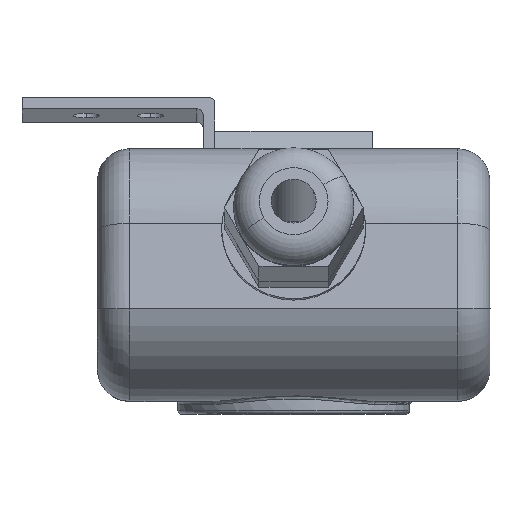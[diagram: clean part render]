
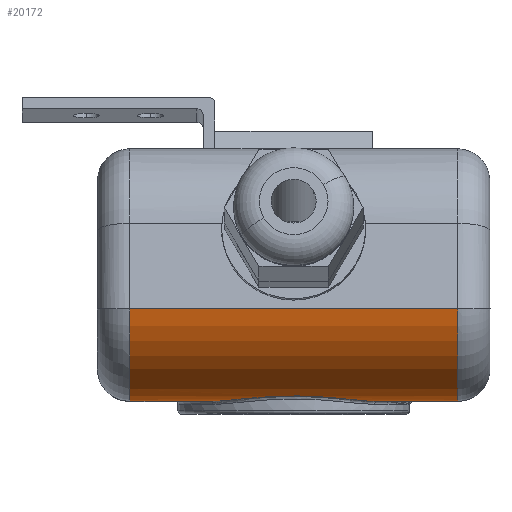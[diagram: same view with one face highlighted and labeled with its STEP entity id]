
A CAD part, top view. The second image highlights one B-rep face of the part: STEP entity #20172.
In plain terms, the highlighted cylindrical face has radius 17 mm (diameter 34 mm), a partial arc.
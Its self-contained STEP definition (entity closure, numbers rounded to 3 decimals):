
#207 = CARTESIAN_POINT ( 'NONE',  ( 14.3, 15.955, -42.574 ) ) ;
#279 = CARTESIAN_POINT ( 'NONE',  ( 13.506, 11.651, -29.321 ) ) ;
#390 = VECTOR ( 'NONE', #7497, 1000. ) ;
#489 = B_SPLINE_CURVE_WITH_KNOTS ( 'NONE', 3,
 ( #16697, #207, #1876, #13579, #3571, #15214, #5232, #16857, #6891, #18509, #8560, #20163, #10246, #279, #11932, #1958, #13648, #3641, #15291, #5308, #16928, #6954, #18586, #8628, #20233, #10320 ),
 .UNSPECIFIED., .F., .F.,
 ( 4, 2, 2, 2, 2, 2, 2, 2, 2, 2, 2, 2, 4 ),
 ( 0., 0.004, 0.005, 0.007, 0.011, 0.012, 0.014, 0.018, 0.02, 0.021, 0.023, 0.025, 0.028 ),
 .UNSPECIFIED. ) ;
#1269 = VERTEX_POINT ( 'NONE', #5138 ) ;
#1521 = CARTESIAN_POINT ( 'NONE',  ( -2.7, 16.784, -56. ) ) ;
#1590 = DIRECTION ( 'NONE',  ( -1., 0., 0. ) ) ;
#1664 = ORIENTED_EDGE ( 'NONE', *, *, #3469, .F. ) ;
#1876 = CARTESIAN_POINT ( 'NONE',  ( 14.241, 15.227, -41.639 ) ) ;
#1958 = CARTESIAN_POINT ( 'NONE',  ( 13.64, 12.092, -26.382 ) ) ;
#2330 = AXIS2_PLACEMENT_3D ( 'NONE', #17073, #7108, #18728 ) ;
#2583 = ORIENTED_EDGE ( 'NONE', *, *, #6000, .T. ) ;
#3210 = DIRECTION ( 'NONE',  ( 1., 0., 0. ) ) ;
#3288 = CARTESIAN_POINT ( 'NONE',  ( -2.7, 16.784, 0. ) ) ;
#3469 = EDGE_CURVE ( 'NONE', #14469, #18178, #15806, .T. ) ;
#3571 = CARTESIAN_POINT ( 'NONE',  ( 14.069, 13.981, -39.629 ) ) ;
#3641 = CARTESIAN_POINT ( 'NONE',  ( 13.768, 12.561, -24.656 ) ) ;
#3778 = AXIS2_PLACEMENT_3D ( 'NONE', #3288, #21471, #1590 ) ;
#4794 = CIRCLE ( 'NONE', #11960, 17. ) ;
#4815 = LINE ( 'NONE', #15791, #390 ) ;
#4886 = DIRECTION ( 'NONE',  ( 0., 0., -1. ) ) ;
#4998 = CARTESIAN_POINT ( 'NONE',  ( 0., 0., -56. ) ) ;
#5138 = CARTESIAN_POINT ( 'NONE',  ( 0., 0., -5. ) ) ;
#5232 = CARTESIAN_POINT ( 'NONE',  ( 13.918, 13.193, -38.022 ) ) ;
#5308 = CARTESIAN_POINT ( 'NONE',  ( 13.916, 13.186, -22.996 ) ) ;
#5589 = VERTEX_POINT ( 'NONE', #13756 ) ;
#5600 = CIRCLE ( 'NONE', #2330, 17. ) ;
#5622 = EDGE_CURVE ( 'NONE', #1269, #7892, #4815, .T. ) ;
#5975 = EDGE_CURVE ( 'NONE', #5589, #18178, #489, .T. ) ;
#6000 = EDGE_CURVE ( 'NONE', #14469, #1269, #5600, .T. ) ;
#6388 = FACE_OUTER_BOUND ( 'NONE', #16003, .T. ) ;
#6534 = EDGE_CURVE ( 'NONE', #7892, #18159, #4794, .T. ) ;
#6891 = CARTESIAN_POINT ( 'NONE',  ( 13.675, 12.21, -35.23 ) ) ;
#6954 = CARTESIAN_POINT ( 'NONE',  ( 14.067, 13.966, -21.398 ) ) ;
#7108 = DIRECTION ( 'NONE',  ( 0., 0., -1. ) ) ;
#7497 = DIRECTION ( 'NONE',  ( 0., 0., -1. ) ) ;
#7892 = VERTEX_POINT ( 'NONE', #4998 ) ;
#8086 = CARTESIAN_POINT ( 'NONE',  ( 14.3, 16.784, -17.554 ) ) ;
#8560 = CARTESIAN_POINT ( 'NONE',  ( 13.55, 11.792, -32.887 ) ) ;
#8628 = CARTESIAN_POINT ( 'NONE',  ( 14.241, 15.223, -19.365 ) ) ;
#9596 = ORIENTED_EDGE ( 'NONE', *, *, #5975, .T. ) ;
#10246 = CARTESIAN_POINT ( 'NONE',  ( 13.507, 11.651, -31.1 ) ) ;
#10320 = CARTESIAN_POINT ( 'NONE',  ( 14.3, 16.784, -17.554 ) ) ;
#10778 = DIRECTION ( 'NONE',  ( 0., 0., -1. ) ) ;
#11382 = VECTOR ( 'NONE', #10778, 1000. ) ;
#11932 = CARTESIAN_POINT ( 'NONE',  ( 13.542, 11.76, -28.141 ) ) ;
#11960 = AXIS2_PLACEMENT_3D ( 'NONE', #1521, #13218, #3210 ) ;
#11985 = VECTOR ( 'NONE', #4886, 1000. ) ;
#13017 = CARTESIAN_POINT ( 'NONE',  ( 14.3, 16.784, -56. ) ) ;
#13218 = DIRECTION ( 'NONE',  ( 0., 0., 1. ) ) ;
#13579 = CARTESIAN_POINT ( 'NONE',  ( 14.117, 14.275, -40.143 ) ) ;
#13648 = CARTESIAN_POINT ( 'NONE',  ( 13.68, 12.232, -25.797 ) ) ;
#13756 = CARTESIAN_POINT ( 'NONE',  ( 14.3, 16.784, -43.446 ) ) ;
#14469 = VERTEX_POINT ( 'NONE', #17301 ) ;
#14759 = CYLINDRICAL_SURFACE ( 'NONE', #3778, 17. ) ;
#15214 = CARTESIAN_POINT ( 'NONE',  ( 13.97, 13.44, -38.569 ) ) ;
#15291 = CARTESIAN_POINT ( 'NONE',  ( 13.816, 12.752, -24.096 ) ) ;
#15340 = ORIENTED_EDGE ( 'NONE', *, *, #16376, .F. ) ;
#15725 = CARTESIAN_POINT ( 'NONE',  ( 14.3, 16.784, -61. ) ) ;
#15791 = CARTESIAN_POINT ( 'NONE',  ( 0., 0., 0. ) ) ;
#15806 = LINE ( 'NONE', #15725, #11382 ) ;
#16003 = EDGE_LOOP ( 'NONE', ( #15340, #9596, #1664, #2583, #17222, #18599 ) ) ;
#16376 = EDGE_CURVE ( 'NONE', #5589, #18159, #16384, .T. ) ;
#16384 = LINE ( 'NONE', #21397, #11985 ) ;
#16697 = CARTESIAN_POINT ( 'NONE',  ( 14.3, 16.784, -43.446 ) ) ;
#16857 = CARTESIAN_POINT ( 'NONE',  ( 13.767, 12.539, -36.365 ) ) ;
#16928 = CARTESIAN_POINT ( 'NONE',  ( 13.968, 13.428, -22.457 ) ) ;
#17073 = CARTESIAN_POINT ( 'NONE',  ( -2.7, 16.784, -5. ) ) ;
#17222 = ORIENTED_EDGE ( 'NONE', *, *, #5622, .T. ) ;
#17301 = CARTESIAN_POINT ( 'NONE',  ( 14.3, 16.784, -5. ) ) ;
#18159 = VERTEX_POINT ( 'NONE', #13017 ) ;
#18178 = VERTEX_POINT ( 'NONE', #8086 ) ;
#18509 = CARTESIAN_POINT ( 'NONE',  ( 13.577, 11.876, -33.48 ) ) ;
#18586 = CARTESIAN_POINT ( 'NONE',  ( 14.115, 14.263, -20.877 ) ) ;
#18599 = ORIENTED_EDGE ( 'NONE', *, *, #6534, .T. ) ;
#18728 = DIRECTION ( 'NONE',  ( -1., 0., 0. ) ) ;
#20163 = CARTESIAN_POINT ( 'NONE',  ( 13.515, 11.679, -31.694 ) ) ;
#20172 = ADVANCED_FACE ( 'NONE', ( #6388 ), #14759, .T. ) ;
#20233 = CARTESIAN_POINT ( 'NONE',  ( 14.3, 15.956, -18.425 ) ) ;
#21397 = CARTESIAN_POINT ( 'NONE',  ( 14.3, 16.784, -61. ) ) ;
#21471 = DIRECTION ( 'NONE',  ( 0., 0., -1. ) ) ;
